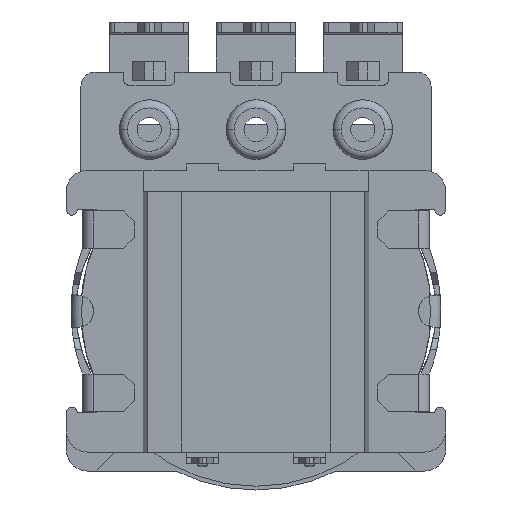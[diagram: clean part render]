
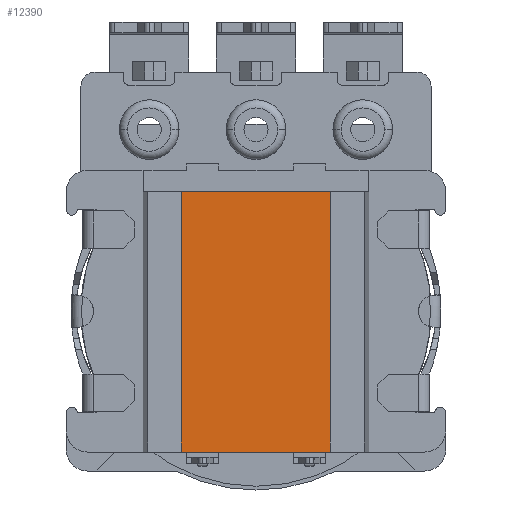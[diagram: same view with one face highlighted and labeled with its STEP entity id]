
A CAD part, front view. The second image highlights one B-rep face of the part: STEP entity #12390.
In plain terms, the highlighted planar face has unit normal (0, -1, 0) as drawn and (0, 0, -1) by its records, which use the part's own axes.
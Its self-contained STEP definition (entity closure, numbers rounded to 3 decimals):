
#1357 = VECTOR ( 'NONE', #25629, 1000. ) ;
#2570 = ORIENTED_EDGE ( 'NONE', *, *, #24650, .F. ) ;
#2687 = CARTESIAN_POINT ( 'NONE',  ( 3.5, 17.517, -1.15 ) ) ;
#3131 = CARTESIAN_POINT ( 'NONE',  ( 3.5, -6.6, -1.15 ) ) ;
#4352 = PLANE ( 'NONE',  #6639 ) ;
#4612 = CARTESIAN_POINT ( 'NONE',  ( -3.49, 5.6, -1.15 ) ) ;
#6283 = CARTESIAN_POINT ( 'NONE',  ( 3.5, 5.6, -1.15 ) ) ;
#6296 = ORIENTED_EDGE ( 'NONE', *, *, #8215, .F. ) ;
#6639 = AXIS2_PLACEMENT_3D ( 'NONE', #17125, #14718, #25104 ) ;
#6803 = CARTESIAN_POINT ( 'NONE',  ( -3.49, -6.6, -1.15 ) ) ;
#6884 = VERTEX_POINT ( 'NONE', #3131 ) ;
#6894 = VECTOR ( 'NONE', #14492, 1000. ) ;
#6896 = VECTOR ( 'NONE', #21397, 1000. ) ;
#7528 = LINE ( 'NONE', #23425, #6896 ) ;
#8215 = EDGE_CURVE ( 'NONE', #21098, #15463, #18524, .T. ) ;
#10610 = DIRECTION ( 'NONE',  ( 0., -1., 0. ) ) ;
#10628 = VERTEX_POINT ( 'NONE', #6803 ) ;
#12390 = ADVANCED_FACE ( 'NONE', ( #16860 ), #4352, .T. ) ;
#14492 = DIRECTION ( 'NONE',  ( -1., 0., 0. ) ) ;
#14718 = DIRECTION ( 'NONE',  ( 0., 0., -1. ) ) ;
#15463 = VERTEX_POINT ( 'NONE', #4612 ) ;
#15471 = ORIENTED_EDGE ( 'NONE', *, *, #20528, .T. ) ;
#15611 = EDGE_CURVE ( 'NONE', #15463, #10628, #7528, .T. ) ;
#16860 = FACE_OUTER_BOUND ( 'NONE', #24251, .T. ) ;
#17125 = CARTESIAN_POINT ( 'NONE',  ( 3.5, 17.517, -1.15 ) ) ;
#18524 = LINE ( 'NONE', #6283, #6894 ) ;
#19946 = CARTESIAN_POINT ( 'NONE',  ( 3.5, -6.6, -1.15 ) ) ;
#20113 = VECTOR ( 'NONE', #10610, 1000. ) ;
#20528 = EDGE_CURVE ( 'NONE', #21098, #6884, #21105, .T. ) ;
#21098 = VERTEX_POINT ( 'NONE', #24963 ) ;
#21105 = LINE ( 'NONE', #2687, #20113 ) ;
#21397 = DIRECTION ( 'NONE',  ( 0., -1., 0. ) ) ;
#23022 = ORIENTED_EDGE ( 'NONE', *, *, #15611, .F. ) ;
#23425 = CARTESIAN_POINT ( 'NONE',  ( -3.49, 17.517, -1.15 ) ) ;
#24251 = EDGE_LOOP ( 'NONE', ( #6296, #15471, #2570, #23022 ) ) ;
#24650 = EDGE_CURVE ( 'NONE', #10628, #6884, #25498, .T. ) ;
#24963 = CARTESIAN_POINT ( 'NONE',  ( 3.5, 5.6, -1.15 ) ) ;
#25104 = DIRECTION ( 'NONE',  ( -1., 0., 0. ) ) ;
#25498 = LINE ( 'NONE', #19946, #1357 ) ;
#25629 = DIRECTION ( 'NONE',  ( 1., 0., 0. ) ) ;
